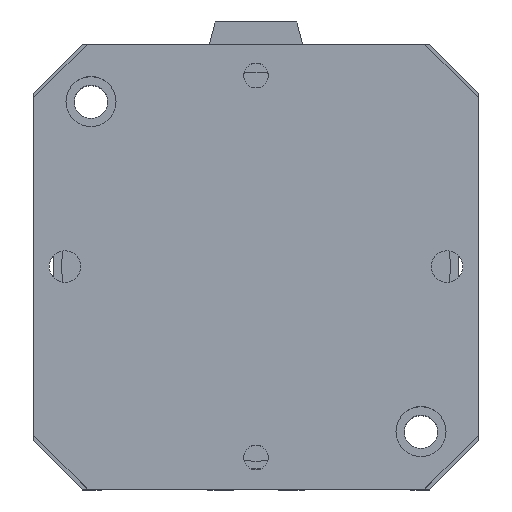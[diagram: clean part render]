
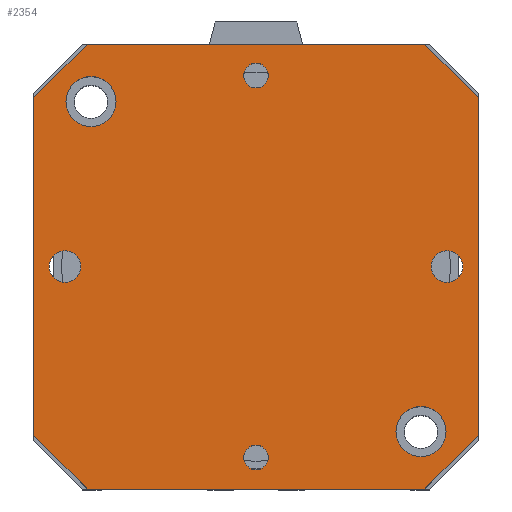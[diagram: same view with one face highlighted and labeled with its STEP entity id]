
A CAD part, top view. The second image highlights one B-rep face of the part: STEP entity #2354.
In plain terms, the highlighted planar face has unit normal (0, 0, 1).
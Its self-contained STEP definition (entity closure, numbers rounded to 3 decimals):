
#221=LINE('',#3869,#429);
#223=LINE('',#3873,#431);
#225=LINE('',#3877,#433);
#227=LINE('',#3881,#435);
#229=LINE('',#3885,#437);
#231=LINE('',#3889,#439);
#233=LINE('',#3893,#441);
#235=LINE('',#3896,#443);
#429=VECTOR('',#3196,91.);
#431=VECTOR('',#3200,20.506);
#433=VECTOR('',#3204,91.);
#435=VECTOR('',#3208,20.506);
#437=VECTOR('',#3212,91.);
#439=VECTOR('',#3216,20.506);
#441=VECTOR('',#3220,91.);
#443=VECTOR('',#3224,20.506);
#537=PLANE('',#2580);
#626=FACE_BOUND('',#956,.T.);
#627=FACE_BOUND('',#957,.T.);
#628=FACE_BOUND('',#958,.T.);
#629=FACE_BOUND('',#959,.T.);
#630=FACE_BOUND('',#960,.T.);
#631=FACE_BOUND('',#961,.T.);
#632=FACE_BOUND('',#962,.T.);
#956=EDGE_LOOP('',(#2134));
#957=EDGE_LOOP('',(#2135));
#958=EDGE_LOOP('',(#2136));
#959=EDGE_LOOP('',(#2137));
#960=EDGE_LOOP('',(#2138));
#961=EDGE_LOOP('',(#2139));
#962=EDGE_LOOP('',(#2140,#2141,#2142,#2143,#2144,#2145,#2146,#2147));
#1035=CIRCLE('',#2536,3.324);
#1037=CIRCLE('',#2539,3.324);
#1042=CIRCLE('',#2547,4.25);
#1046=CIRCLE('',#2554,4.25);
#1055=CIRCLE('',#2569,6.75);
#1056=CIRCLE('',#2571,6.75);
#1235=VERTEX_POINT('',#3787);
#1237=VERTEX_POINT('',#3792);
#1242=VERTEX_POINT('',#3805);
#1246=VERTEX_POINT('',#3816);
#1265=VERTEX_POINT('',#3860);
#1266=VERTEX_POINT('',#3863);
#1267=VERTEX_POINT('',#3866);
#1268=VERTEX_POINT('',#3868);
#1269=VERTEX_POINT('',#3872);
#1270=VERTEX_POINT('',#3876);
#1271=VERTEX_POINT('',#3880);
#1272=VERTEX_POINT('',#3884);
#1273=VERTEX_POINT('',#3888);
#1274=VERTEX_POINT('',#3892);
#1521=EDGE_CURVE('',#1235,#1235,#1035,.T.);
#1523=EDGE_CURVE('',#1237,#1237,#1037,.T.);
#1528=EDGE_CURVE('',#1242,#1242,#1042,.T.);
#1532=EDGE_CURVE('',#1246,#1246,#1046,.T.);
#1551=EDGE_CURVE('',#1265,#1265,#1055,.T.);
#1552=EDGE_CURVE('',#1266,#1266,#1056,.T.);
#1554=EDGE_CURVE('',#1268,#1267,#221,.T.);
#1556=EDGE_CURVE('',#1269,#1268,#223,.T.);
#1558=EDGE_CURVE('',#1270,#1269,#225,.T.);
#1560=EDGE_CURVE('',#1271,#1270,#227,.T.);
#1562=EDGE_CURVE('',#1272,#1271,#229,.T.);
#1564=EDGE_CURVE('',#1273,#1272,#231,.T.);
#1566=EDGE_CURVE('',#1274,#1273,#233,.T.);
#1568=EDGE_CURVE('',#1267,#1274,#235,.T.);
#2134=ORIENTED_EDGE('',*,*,#1521,.T.);
#2135=ORIENTED_EDGE('',*,*,#1523,.T.);
#2136=ORIENTED_EDGE('',*,*,#1528,.T.);
#2137=ORIENTED_EDGE('',*,*,#1532,.T.);
#2138=ORIENTED_EDGE('',*,*,#1551,.T.);
#2139=ORIENTED_EDGE('',*,*,#1552,.T.);
#2140=ORIENTED_EDGE('',*,*,#1568,.T.);
#2141=ORIENTED_EDGE('',*,*,#1566,.T.);
#2142=ORIENTED_EDGE('',*,*,#1564,.T.);
#2143=ORIENTED_EDGE('',*,*,#1562,.T.);
#2144=ORIENTED_EDGE('',*,*,#1560,.T.);
#2145=ORIENTED_EDGE('',*,*,#1558,.T.);
#2146=ORIENTED_EDGE('',*,*,#1556,.T.);
#2147=ORIENTED_EDGE('',*,*,#1554,.T.);
#2354=ADVANCED_FACE('',(#626,#627,#628,#629,#630,#631,#632),#537,.T.);
#2536=AXIS2_PLACEMENT_3D('',#3788,#3111,#3112);
#2539=AXIS2_PLACEMENT_3D('',#3793,#3117,#3118);
#2547=AXIS2_PLACEMENT_3D('',#3806,#3133,#3134);
#2554=AXIS2_PLACEMENT_3D('',#3817,#3147,#3148);
#2569=AXIS2_PLACEMENT_3D('',#3861,#3187,#3188);
#2571=AXIS2_PLACEMENT_3D('',#3864,#3191,#3192);
#2580=AXIS2_PLACEMENT_3D('',#3897,#3225,#3226);
#3111=DIRECTION('center_axis',(0.,0.,-1.));
#3112=DIRECTION('ref_axis',(1.,0.,0.));
#3117=DIRECTION('center_axis',(0.,0.,-1.));
#3118=DIRECTION('ref_axis',(1.,0.,0.));
#3133=DIRECTION('center_axis',(0.,0.,-1.));
#3134=DIRECTION('ref_axis',(1.,0.,0.));
#3147=DIRECTION('center_axis',(0.,0.,-1.));
#3148=DIRECTION('ref_axis',(1.,0.,0.));
#3187=DIRECTION('center_axis',(0.,0.,-1.));
#3188=DIRECTION('ref_axis',(-1.,0.,0.));
#3191=DIRECTION('center_axis',(0.,0.,-1.));
#3192=DIRECTION('ref_axis',(-1.,0.,0.));
#3196=DIRECTION('',(0.,1.,0.));
#3200=DIRECTION('',(0.707,0.707,0.));
#3204=DIRECTION('',(1.,0.,0.));
#3208=DIRECTION('',(0.707,-0.707,0.));
#3212=DIRECTION('',(0.,-1.,0.));
#3216=DIRECTION('',(-0.707,-0.707,0.));
#3220=DIRECTION('',(-1.,0.,0.));
#3224=DIRECTION('',(-0.707,0.707,0.));
#3225=DIRECTION('center_axis',(0.,0.,1.));
#3226=DIRECTION('ref_axis',(1.,0.,0.));
#3787=CARTESIAN_POINT('',(-54.824,0.,120.75));
#3788=CARTESIAN_POINT('Origin',(-51.5,0.,120.75));
#3792=CARTESIAN_POINT('',(48.177,0.,120.75));
#3793=CARTESIAN_POINT('Origin',(51.5,0.,120.75));
#3805=CARTESIAN_POINT('',(-4.25,51.5,120.75));
#3806=CARTESIAN_POINT('Origin',(0.,51.5,120.75));
#3816=CARTESIAN_POINT('',(-4.25,-51.5,120.75));
#3817=CARTESIAN_POINT('Origin',(0.,-51.5,120.75));
#3860=CARTESIAN_POINT('',(-37.75,-44.5,120.75));
#3861=CARTESIAN_POINT('Origin',(-44.5,-44.5,120.75));
#3863=CARTESIAN_POINT('',(51.25,44.5,120.75));
#3864=CARTESIAN_POINT('Origin',(44.5,44.5,120.75));
#3866=CARTESIAN_POINT('',(60.,45.5,120.75));
#3868=CARTESIAN_POINT('',(60.,-45.5,120.75));
#3869=CARTESIAN_POINT('',(60.,45.5,120.75));
#3872=CARTESIAN_POINT('',(45.5,-60.,120.75));
#3873=CARTESIAN_POINT('',(60.,-45.5,120.75));
#3876=CARTESIAN_POINT('',(-45.5,-60.,120.75));
#3877=CARTESIAN_POINT('',(45.5,-60.,120.75));
#3880=CARTESIAN_POINT('',(-60.,-45.5,120.75));
#3881=CARTESIAN_POINT('',(-45.5,-60.,120.75));
#3884=CARTESIAN_POINT('',(-60.,45.5,120.75));
#3885=CARTESIAN_POINT('',(-60.,-45.5,120.75));
#3888=CARTESIAN_POINT('',(-45.5,60.,120.75));
#3889=CARTESIAN_POINT('',(-60.,45.5,120.75));
#3892=CARTESIAN_POINT('',(45.5,60.,120.75));
#3893=CARTESIAN_POINT('',(-45.5,60.,120.75));
#3896=CARTESIAN_POINT('',(45.5,60.,120.75));
#3897=CARTESIAN_POINT('Origin',(0.,0.,120.75));
